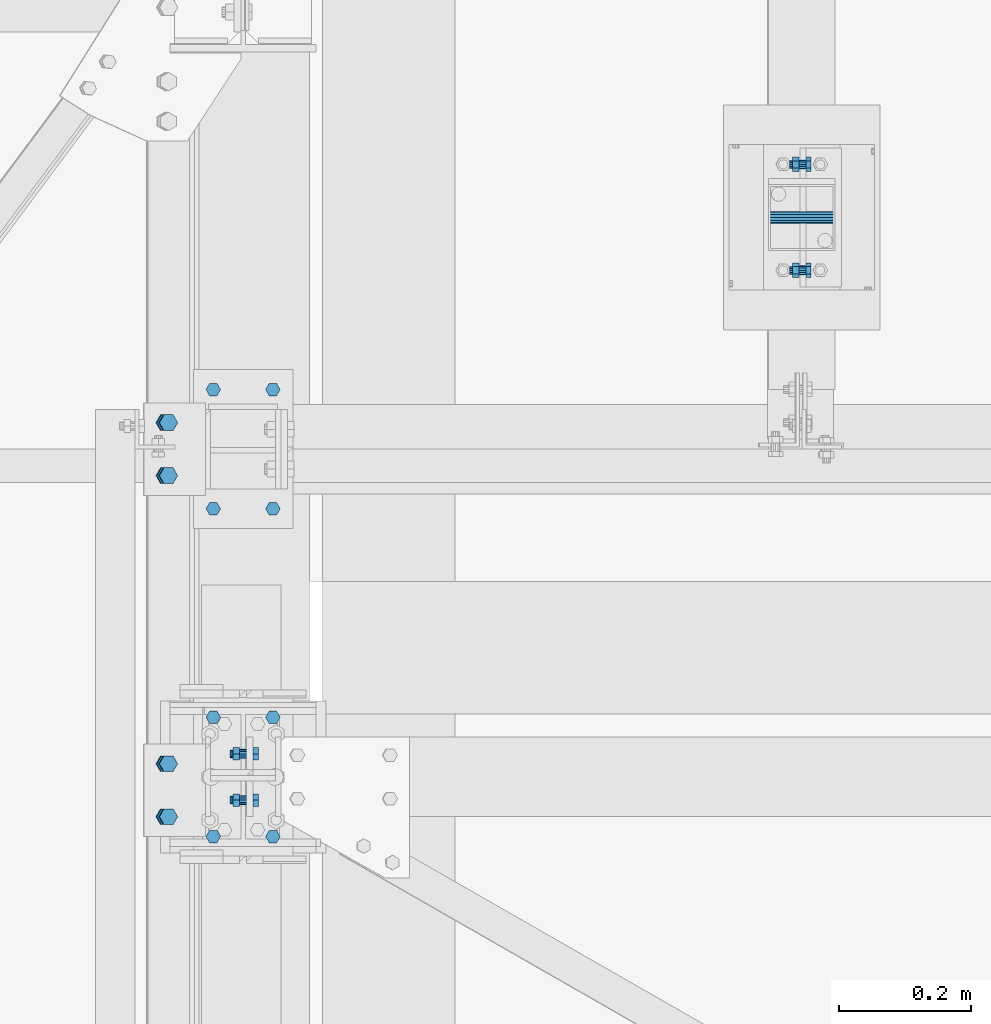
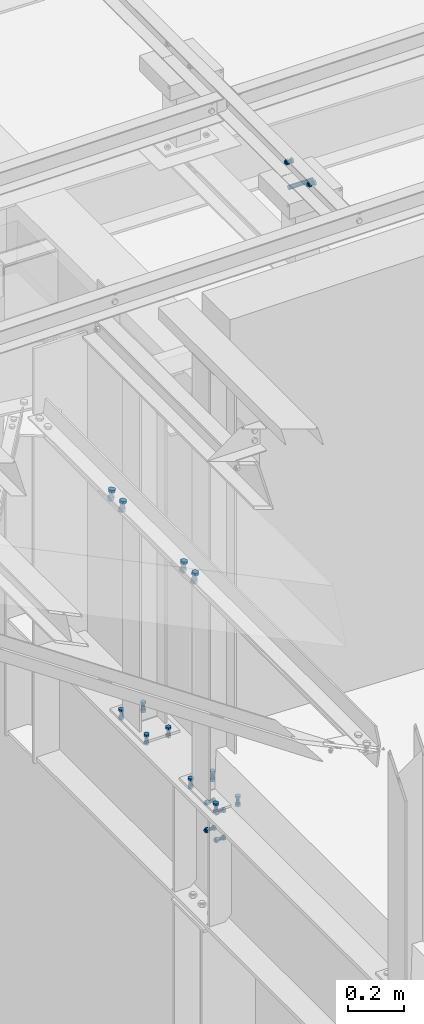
# One storey, part 388 of 3134: 7 mechanical fasteners, 3 elements without a shape of their own.
"""IFC2X3 building model written with IfcOpenShell, lengths in millimetres."""

from ifc_helpers import new_model, si_unit, frame, origin_with_axes, place, context, subcontext, project, spatial, faceted_brep, source, transform, mapped, material, type_object, element, aggregate, save


model = new_model("IFC2X3")

# Units and contexts
model_context = context("Model", 3, precision=1e-05, world=origin_with_axes())
body_context = subcontext(model_context, "Body", "Model", "MODEL_VIEW")
ifc_project = project(units=[si_unit("LENGTHUNIT", "METRE", prefix="MILLI"), si_unit("AREAUNIT", "SQUARE_METRE"), si_unit("VOLUMEUNIT", "CUBIC_METRE"), si_unit("MASSUNIT", "GRAM", prefix="KILO"), si_unit("TIMEUNIT", "SECOND"), si_unit("PLANEANGLEUNIT", "RADIAN"), si_unit("SOLIDANGLEUNIT", "STERADIAN"), si_unit("THERMODYNAMICTEMPERATUREUNIT", "DEGREE_CELSIUS"), si_unit("LUMINOUSINTENSITYUNIT", "LUMEN")], contexts=[model_context])

# Site, building, storey
site_placement = place(None, origin_with_axes())
site = spatial("IfcSite", under=ifc_project, at=site_placement, CompositionType="ELEMENT")
building_placement = place(site_placement, origin_with_axes())
building = spatial("IfcBuilding", under=site, at=building_placement, Name="Undefined", CompositionType="ELEMENT")
storey_placement = place(building_placement, origin_with_axes())
storey = spatial("IfcBuildingStorey", under=building, at=storey_placement, Name="Undefined", CompositionType="ELEMENT", Elevation=0.0)

# Assembly, mechanical fasteners
assembly_1_placement = place(storey_placement, origin_with_axes())
assembly_1 = element("IfcElementAssembly", 1, at=assembly_1_placement, inside=storey, AssemblyPlace="NOTDEFINED", PredefinedType="RIGID_FRAME")
ifc_material = material(Name="8.8")
mechanical_fastener_type = type_object("IfcMechanicalFastenerType", Name="Bolt assembly")
shared_shape_1 = source(origin_with_axes(), body_context, "Body", "Brep", [
    faceted_brep([(10.9696551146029, -14.0, 0.0), (5.48482755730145, -14.0, 9.5), (-5.48482755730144, -14.0, 9.5), (-10.9696551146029, -14.0, 1.34339530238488e-15), (-5.48482755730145, -14.0, -9.5), (5.48482755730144, -14.0, -9.50000000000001), (5.48482755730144, -6.0, -9.50000000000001), (-5.48482755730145, -6.0, -9.5), (-10.9696551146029, -6.0, 1.34339530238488e-15), (-5.48482755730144, -6.0, 9.5), (5.48482755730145, -6.0, 9.5), (10.9696551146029, -6.0, 0.0), (6.0, -6.0, 0.0), (5.19615242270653, -6.0, 3.00000000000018), (2.99999999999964, -6.0, 5.19615242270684), (-6.21801588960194e-13, -6.0, 6.0), (-3.00000000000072, -6.0, 5.19615242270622), (-5.19615242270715, -6.0, 2.9999999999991), (-6.0, -6.0, -1.24360317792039e-12), (-5.19615242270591, -6.0, -3.00000000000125), (-2.99999999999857, -6.0, -5.19615242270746), (1.85874342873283e-12, -6.0, -6.0), (3.00000000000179, -6.0, -5.1961524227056), (5.19615242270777, -6.0, -2.99999999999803), (5.19615242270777, 19.0, -2.99999999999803), (3.00000000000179, 19.0, -5.1961524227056), (1.85874342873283e-12, 19.0, -6.0), (-2.99999999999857, 19.0, -5.19615242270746), (-5.19615242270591, 19.0, -3.00000000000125), (-6.0, 19.0, -1.24360317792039e-12), (-5.19615242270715, 19.0, 2.9999999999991), (-3.00000000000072, 19.0, 5.19615242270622), (-6.21801588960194e-13, 19.0, 6.0), (2.99999999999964, 19.0, 5.19615242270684), (5.19615242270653, 19.0, 3.00000000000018), (6.0, 19.0, 0.0), (10.9696551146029, 4.00000000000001, 0.0), (5.48482755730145, 4.00000000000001, 9.5), (-5.48482755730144, 4.00000000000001, 9.5), (-10.9696551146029, 4.00000000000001, 1.34339530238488e-15), (-5.48482755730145, 4.00000000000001, -9.5), (5.48482755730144, 4.00000000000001, -9.50000000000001), (5.48482755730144, 14.0, -9.50000000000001), (-5.48482755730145, 14.0, -9.5), (-10.9696551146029, 14.0, 1.34339530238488e-15), (-5.48482755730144, 14.0, 9.5), (5.48482755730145, 14.0, 9.5), (10.9696551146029, 14.0, 0.0)], [[[0, 1, 2, 3, 4, 5]], [[6, 7, 8, 9, 10, 11]], [[0, 11, 10, 1]], [[1, 10, 9, 2]], [[2, 9, 8, 3]], [[3, 8, 7, 4]], [[4, 7, 6, 5]], [[5, 6, 11, 0]], [[12, 13, 14, 15, 16, 17, 18, 19, 20, 21, 22, 23]], [[24, 25, 26, 27, 28, 29, 30, 31, 32, 33, 34, 35]], [[12, 35, 34, 13]], [[13, 34, 33, 14]], [[14, 33, 32, 15]], [[15, 32, 31, 16]], [[16, 31, 30, 17]], [[17, 30, 29, 18]], [[18, 29, 28, 19]], [[19, 28, 27, 20]], [[20, 27, 26, 21]], [[21, 26, 25, 22]], [[22, 25, 24, 23]], [[23, 24, 35, 12]], [[36, 37, 38, 39, 40, 41]], [[42, 43, 44, 45, 46, 47]], [[36, 47, 46, 37]], [[37, 46, 45, 38]], [[38, 45, 44, 39]], [[39, 44, 43, 40]], [[40, 43, 42, 41]], [[41, 42, 47, 36]]]),
    faceted_brep([(7.0, -0.1, 0.0), (6.06217782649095, -0.1, 3.50000000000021), (3.49999999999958, -0.1, 6.06217782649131), (-7.25435187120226e-13, -0.1, 7.0), (-3.50000000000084, -0.1, 6.06217782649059), (-6.06217782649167, -0.1, 3.49999999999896), (-7.0, -0.1, -1.45087037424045e-12), (-6.06217782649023, -0.1, -3.50000000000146), (-3.49999999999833, -0.1, -6.06217782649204), (2.1685340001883e-12, -0.1, -7.0), (3.50000000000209, -0.1, -6.06217782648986), (6.0621778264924, -0.1, -3.4999999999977), (6.0621778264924, 4.00000000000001, -3.4999999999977), (3.50000000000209, 4.00000000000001, -6.06217782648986), (2.1685340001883e-12, 4.00000000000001, -7.0), (-3.49999999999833, 4.00000000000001, -6.06217782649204), (-6.06217782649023, 4.00000000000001, -3.50000000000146), (-7.0, 4.00000000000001, -1.45087037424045e-12), (-6.06217782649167, 4.00000000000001, 3.49999999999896), (-3.50000000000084, 4.00000000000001, 6.06217782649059), (-7.25435187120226e-13, 4.00000000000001, 7.0), (3.49999999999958, 4.00000000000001, 6.06217782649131), (6.06217782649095, 4.00000000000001, 3.50000000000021), (7.0, 4.00000000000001, 0.0), (7.0, -5.9, 0.0), (6.06217782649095, -5.9, 3.50000000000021), (3.49999999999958, -5.9, 6.06217782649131), (-7.25435187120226e-13, -5.9, 7.0), (-3.50000000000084, -5.9, 6.06217782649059), (-6.06217782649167, -5.9, 3.49999999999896), (-7.0, -5.9, -1.45087037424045e-12), (-6.06217782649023, -5.9, -3.50000000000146), (-3.49999999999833, -5.9, -6.06217782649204), (2.1685340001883e-12, -5.9, -7.0), (3.50000000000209, -5.9, -6.06217782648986), (6.0621778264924, -5.9, -3.4999999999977), (6.0621778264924, 0.0999999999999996, -3.4999999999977), (3.50000000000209, 0.0999999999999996, -6.06217782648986), (2.1685340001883e-12, 0.0999999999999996, -7.0), (-3.49999999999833, 0.0999999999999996, -6.06217782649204), (-6.06217782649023, 0.0999999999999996, -3.50000000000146), (-7.0, 0.0999999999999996, -1.45087037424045e-12), (-6.06217782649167, 0.0999999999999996, 3.49999999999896), (-3.50000000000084, 0.0999999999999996, 6.06217782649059), (-7.25435187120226e-13, 0.0999999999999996, 7.0), (3.49999999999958, 0.0999999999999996, 6.06217782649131), (6.06217782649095, 0.0999999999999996, 3.50000000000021), (7.0, 0.0999999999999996, 0.0)], [[[0, 1, 2, 3, 4, 5, 6, 7, 8, 9, 10, 11]], [[12, 13, 14, 15, 16, 17, 18, 19, 20, 21, 22, 23]], [[0, 23, 22, 1]], [[1, 22, 21, 2]], [[2, 21, 20, 3]], [[3, 20, 19, 4]], [[4, 19, 18, 5]], [[5, 18, 17, 6]], [[6, 17, 16, 7]], [[7, 16, 15, 8]], [[8, 15, 14, 9]], [[9, 14, 13, 10]], [[10, 13, 12, 11]], [[11, 12, 23, 0]], [[24, 25, 26, 27, 28, 29, 30, 31, 32, 33, 34, 35]], [[36, 37, 38, 39, 40, 41, 42, 43, 44, 45, 46, 47]], [[24, 47, 46, 25]], [[25, 46, 45, 26]], [[26, 45, 44, 27]], [[27, 44, 43, 28]], [[28, 43, 42, 29]], [[29, 42, 41, 30]], [[30, 41, 40, 31]], [[31, 40, 39, 32]], [[32, 39, 38, 33]], [[33, 38, 37, 34]], [[34, 37, 36, 35]], [[35, 36, 47, 24]]]),
])
mechanical_fastener_1_placement = place(assembly_1_placement, frame((72658.73, 26815.0, 5885.0), z_axis=(0.0, 0.0, 1.0), x_axis=(0.0, 1.0, 0.0)))
mechanical_fastener_1 = element("IfcMechanicalFastener", 2, at=mechanical_fastener_1_placement, type_object=mechanical_fastener_type, material=ifc_material, Name="Bolt assembly", NominalDiameter=12.0, NominalLength=25.0, context=body_context, shape_type="MappedRepresentation", body=[
    mapped(shared_shape_1, transform((0.0, 0.0, 0.0))),
    mapped(shared_shape_1, transform((160.0, 0.0, 0.0))),
])
shared_shape_2 = source(origin_with_axes(), body_context, "Body", "Brep", [
    faceted_brep([(9.0, -50.0, 0.0), (7.79422863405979, -50.0, 4.50000000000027), (4.49999999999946, -50.0, 7.79422863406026), (-9.3270238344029e-13, -50.0, 9.0), (-4.50000000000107, -50.0, 7.79422863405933), (-7.79422863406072, -50.0, 4.49999999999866), (-9.0, -50.0, -1.86540476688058e-12), (-7.79422863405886, -50.0, -4.50000000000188), (-4.49999999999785, -50.0, -7.79422863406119), (2.78811514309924e-12, -50.0, -9.0), (4.50000000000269, -50.0, -7.7942286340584), (7.79422863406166, -50.0, -4.49999999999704), (7.79422863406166, 50.1, -4.49999999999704), (4.50000000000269, 50.1, -7.7942286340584), (2.78811514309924e-12, 50.1, -9.0), (-4.49999999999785, 50.1, -7.79422863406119), (-7.79422863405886, 50.1, -4.50000000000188), (-9.0, 50.1, -1.86540476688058e-12), (-7.79422863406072, 50.1, 4.49999999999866), (-4.50000000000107, 50.1, 7.79422863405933), (-9.3270238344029e-13, 50.1, 9.0), (4.49999999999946, 50.1, 7.79422863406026), (7.79422863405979, 50.1, 4.50000000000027), (9.0, 50.1, 0.0)], [[[0, 1, 2, 3, 4, 5, 6, 7, 8, 9, 10, 11]], [[12, 13, 14, 15, 16, 17, 18, 19, 20, 21, 22, 23]], [[0, 23, 22, 1]], [[1, 22, 21, 2]], [[2, 21, 20, 3]], [[3, 20, 19, 4]], [[4, 19, 18, 5]], [[5, 18, 17, 6]], [[6, 17, 16, 7]], [[7, 16, 15, 8]], [[8, 15, 14, 9]], [[9, 14, 13, 10]], [[10, 13, 12, 11]], [[11, 12, 23, 0]]]),
])
mechanical_fastener_2_placement = place(assembly_1_placement, frame((72658.73, 26895.0, 5836.0), z_axis=(0.0, 1.0, 0.0), x_axis=(0.0, 0.0, 1.0)))
mechanical_fastener_2 = element("IfcMechanicalFastener", 3, at=mechanical_fastener_2_placement, type_object=mechanical_fastener_type, material=ifc_material, Name="Bolt assembly", NominalDiameter=16.0, NominalLength=100.0, context=body_context, shape_type="MappedRepresentation", body=[
    mapped(shared_shape_2, transform((0.0, 0.0, 0.0))),
])
aggregate(assembly_1, [mechanical_fastener_2, mechanical_fastener_1])

assembly_2_placement = place(storey_placement, origin_with_axes())
assembly_2 = element("IfcElementAssembly", 4, at=assembly_2_placement, inside=storey, AssemblyPlace="NOTDEFINED", PredefinedType="RIGID_FRAME")
shared_shape_3 = source(origin_with_axes(), body_context, "Body", "Brep", [
    faceted_brep([(13.856406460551, -25.007987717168, 0.0), (6.92820323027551, -25.007987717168, 12.0), (-6.92820323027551, -25.007987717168, 12.0), (-13.856406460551, -25.007987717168, 1.69692038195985e-15), (-6.92820323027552, -25.007987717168, -12.0), (6.9282032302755, -25.007987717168, -12.0), (6.9282032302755, -15.007987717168, -12.0), (-6.92820323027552, -15.007987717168, -12.0), (-13.856406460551, -15.007987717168, 1.69692038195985e-15), (-6.92820323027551, -15.007987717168, 12.0), (6.92820323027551, -15.007987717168, 12.0), (13.856406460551, -15.007987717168, 0.0), (8.0, -15.007987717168, 0.0), (6.92820323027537, -15.007987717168, 4.00000000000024), (3.99999999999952, -15.007987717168, 6.92820323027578), (-8.29068785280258e-13, -15.007987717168, 8.0), (-4.00000000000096, -15.007987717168, 6.92820323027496), (-6.9282032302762, -15.007987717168, 3.99999999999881), (-8.0, -15.007987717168, -1.65813757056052e-12), (-6.92820323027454, -15.007987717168, -4.00000000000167), (-3.99999999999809, -15.007987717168, -6.92820323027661), (2.47832457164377e-12, -15.007987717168, -8.0), (4.00000000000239, -15.007987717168, -6.92820323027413), (6.92820323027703, -15.007987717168, -3.99999999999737), (6.92820323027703, 24.992012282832, -3.99999999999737), (4.00000000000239, 24.992012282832, -6.92820323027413), (2.47832457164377e-12, 24.992012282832, -8.0), (-3.99999999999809, 24.992012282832, -6.92820323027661), (-6.92820323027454, 24.992012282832, -4.00000000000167), (-8.0, 24.992012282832, -1.65813757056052e-12), (-6.9282032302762, 24.992012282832, 3.99999999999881), (-4.00000000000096, 24.992012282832, 6.92820323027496), (-8.29068785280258e-13, 24.992012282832, 8.0), (3.99999999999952, 24.992012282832, 6.92820323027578), (6.92820323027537, 24.992012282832, 4.00000000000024), (8.0, 24.992012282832, 0.0), (13.856406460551, 6.99201311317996, 0.0), (6.92820323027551, 6.99201311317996, 12.0), (-6.92820323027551, 6.99201311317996, 12.0), (-13.856406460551, 6.99201311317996, 1.69692038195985e-15), (-6.92820323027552, 6.99201311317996, -12.0), (6.9282032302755, 6.99201311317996, -12.0), (6.9282032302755, 19.99201311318, -12.0), (-6.92820323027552, 19.99201311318, -12.0), (-13.856406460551, 19.99201311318, 1.69692038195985e-15), (-6.92820323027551, 19.99201311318, 12.0), (6.92820323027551, 19.99201311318, 12.0), (13.856406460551, 19.99201311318, 0.0)], [[[0, 1, 2, 3, 4, 5]], [[6, 7, 8, 9, 10, 11]], [[0, 11, 10, 1]], [[1, 10, 9, 2]], [[2, 9, 8, 3]], [[3, 8, 7, 4]], [[4, 7, 6, 5]], [[5, 6, 11, 0]], [[12, 13, 14, 15, 16, 17, 18, 19, 20, 21, 22, 23]], [[24, 25, 26, 27, 28, 29, 30, 31, 32, 33, 34, 35]], [[12, 35, 34, 13]], [[13, 34, 33, 14]], [[14, 33, 32, 15]], [[15, 32, 31, 16]], [[16, 31, 30, 17]], [[17, 30, 29, 18]], [[18, 29, 28, 19]], [[19, 28, 27, 20]], [[20, 27, 26, 21]], [[21, 26, 25, 22]], [[22, 25, 24, 23]], [[23, 24, 35, 12]], [[36, 37, 38, 39, 40, 41]], [[42, 43, 44, 45, 46, 47]], [[36, 47, 46, 37]], [[37, 46, 45, 38]], [[38, 45, 44, 39]], [[39, 44, 43, 40]], [[40, 43, 42, 41]], [[41, 42, 47, 36]]]),
    faceted_brep([(9.0, -8.00998767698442, 0.0), (7.79422863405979, -8.00998767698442, 4.50000000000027), (4.49999999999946, -8.00998767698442, 7.79422863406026), (-9.3270238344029e-13, -8.00998767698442, 9.0), (-4.50000000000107, -8.00998767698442, 7.79422863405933), (-7.79422863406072, -8.00998767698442, 4.49999999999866), (-9.0, -8.00998767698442, -1.86540476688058e-12), (-7.79422863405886, -8.00998767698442, -4.50000000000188), (-4.49999999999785, -8.00998767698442, -7.79422863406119), (2.78811514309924e-12, -8.00998767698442, -9.0), (4.50000000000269, -8.00998767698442, -7.7942286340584), (7.79422863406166, -8.00998767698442, -4.49999999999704), (7.79422863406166, -0.00998752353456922, -4.49999999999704), (4.50000000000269, -0.00998752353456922, -7.7942286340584), (2.78811514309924e-12, -0.00998752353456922, -9.0), (-4.49999999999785, -0.00998752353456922, -7.79422863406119), (-7.79422863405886, -0.00998752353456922, -4.50000000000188), (-9.0, -0.00998752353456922, -1.86540476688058e-12), (-7.79422863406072, -0.00998752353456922, 4.49999999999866), (-4.50000000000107, -0.00998752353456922, 7.79422863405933), (-9.3270238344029e-13, -0.00998752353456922, 9.0), (4.49999999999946, -0.00998752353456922, 7.79422863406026), (7.79422863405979, -0.00998752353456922, 4.50000000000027), (9.0, -0.00998752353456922, 0.0), (9.0, -14.907987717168, 0.0), (7.79422863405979, -14.907987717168, 4.50000000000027), (4.49999999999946, -14.907987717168, 7.79422863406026), (-9.3270238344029e-13, -14.907987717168, 9.0), (-4.50000000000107, -14.907987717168, 7.79422863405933), (-7.79422863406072, -14.907987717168, 4.49999999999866), (-9.0, -14.907987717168, -1.86540476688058e-12), (-7.79422863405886, -14.907987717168, -4.50000000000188), (-4.49999999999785, -14.907987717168, -7.79422863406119), (2.78811514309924e-12, -14.907987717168, -9.0), (4.50000000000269, -14.907987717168, -7.7942286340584), (7.79422863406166, -14.907987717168, -4.49999999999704), (7.79422863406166, -7.90798758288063, -4.49999999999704), (4.50000000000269, -7.90798758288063, -7.7942286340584), (2.78811514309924e-12, -7.90798758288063, -9.0), (-4.49999999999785, -7.90798758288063, -7.79422863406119), (-7.79422863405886, -7.90798758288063, -4.50000000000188), (-9.0, -7.90798758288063, -1.86540476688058e-12), (-7.79422863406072, -7.90798758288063, 4.49999999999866), (-4.50000000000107, -7.90798758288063, 7.79422863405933), (-9.3270238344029e-13, -7.90798758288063, 9.0), (4.49999999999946, -7.90798758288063, 7.79422863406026), (7.79422863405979, -7.90798758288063, 4.50000000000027), (9.0, -7.90798758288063, 0.0), (9.0, -0.107987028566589, 0.0), (7.79422863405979, -0.107987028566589, 4.50000000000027), (4.49999999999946, -0.107987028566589, 7.79422863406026), (-9.3270238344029e-13, -0.107987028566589, 9.0), (-4.50000000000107, -0.107987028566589, 7.79422863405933), (-7.79422863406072, -0.107987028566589, 4.49999999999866), (-9.0, -0.107987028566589, -1.86540476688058e-12), (-7.79422863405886, -0.107987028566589, -4.50000000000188), (-4.49999999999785, -0.107987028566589, -7.79422863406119), (2.78811514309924e-12, -0.107987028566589, -9.0), (4.50000000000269, -0.107987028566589, -7.7942286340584), (7.79422863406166, -0.107987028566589, -4.49999999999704), (7.79422863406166, 6.99201311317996, -4.49999999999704), (4.50000000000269, 6.99201311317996, -7.7942286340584), (2.78811514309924e-12, 6.99201311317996, -9.0), (-4.49999999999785, 6.99201311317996, -7.79422863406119), (-7.79422863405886, 6.99201311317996, -4.50000000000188), (-9.0, 6.99201311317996, -1.86540476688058e-12), (-7.79422863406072, 6.99201311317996, 4.49999999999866), (-4.50000000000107, 6.99201311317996, 7.79422863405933), (-9.3270238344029e-13, 6.99201311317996, 9.0), (4.49999999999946, 6.99201311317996, 7.79422863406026), (7.79422863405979, 6.99201311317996, 4.50000000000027), (9.0, 6.99201311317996, 0.0)], [[[0, 1, 2, 3, 4, 5, 6, 7, 8, 9, 10, 11]], [[12, 13, 14, 15, 16, 17, 18, 19, 20, 21, 22, 23]], [[0, 23, 22, 1]], [[1, 22, 21, 2]], [[2, 21, 20, 3]], [[3, 20, 19, 4]], [[4, 19, 18, 5]], [[5, 18, 17, 6]], [[6, 17, 16, 7]], [[7, 16, 15, 8]], [[8, 15, 14, 9]], [[9, 14, 13, 10]], [[10, 13, 12, 11]], [[11, 12, 23, 0]], [[24, 25, 26, 27, 28, 29, 30, 31, 32, 33, 34, 35]], [[36, 37, 38, 39, 40, 41, 42, 43, 44, 45, 46, 47]], [[24, 47, 46, 25]], [[25, 46, 45, 26]], [[26, 45, 44, 27]], [[27, 44, 43, 28]], [[28, 43, 42, 29]], [[29, 42, 41, 30]], [[30, 41, 40, 31]], [[31, 40, 39, 32]], [[32, 39, 38, 33]], [[33, 38, 37, 34]], [[34, 37, 36, 35]], [[35, 36, 47, 24]], [[48, 49, 50, 51, 52, 53, 54, 55, 56, 57, 58, 59]], [[60, 61, 62, 63, 64, 65, 66, 67, 68, 69, 70, 71]], [[48, 71, 70, 49]], [[49, 70, 69, 50]], [[50, 69, 68, 51]], [[51, 68, 67, 52]], [[52, 67, 66, 53]], [[53, 66, 65, 54]], [[54, 65, 64, 55]], [[55, 64, 63, 56]], [[56, 63, 62, 57]], [[57, 62, 61, 58]], [[58, 61, 60, 59]], [[59, 60, 71, 48]]]),
])
mechanical_fastener_3_placement = place(assembly_2_placement, frame((71699.409483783, 26545.0, 5004.91093430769), z_axis=(0.0, 1.0, 0.0), x_axis=(0.992646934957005, 0.0, -0.121045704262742)))
mechanical_fastener_3 = element("IfcMechanicalFastener", 5, at=mechanical_fastener_3_placement, type_object=mechanical_fastener_type, material=ifc_material, Name="Bolt assembly", NominalDiameter=16.0, NominalLength=40.0, context=body_context, shape_type="MappedRepresentation", body=[
    mapped(shared_shape_3, transform((0.0, 0.0, -40.0))),
    mapped(shared_shape_3, transform((0.0, 0.0, 40.0))),
])
mechanical_fastener_4_placement = place(assembly_2_placement, frame((71699.409483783, 26030.0, 5004.91093430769), z_axis=(0.0, 1.0, 0.0), x_axis=(0.992646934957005, 0.0, -0.121045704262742)))
mechanical_fastener_4 = element("IfcMechanicalFastener", 6, at=mechanical_fastener_4_placement, type_object=mechanical_fastener_type, material=ifc_material, Name="Bolt assembly", NominalDiameter=16.0, NominalLength=40.0, context=body_context, shape_type="MappedRepresentation", body=[
    mapped(shared_shape_3, transform((0.0, 0.0, -40.0))),
    mapped(shared_shape_3, transform((0.0, 0.0, 40.0))),
])
aggregate(assembly_2, [mechanical_fastener_3, mechanical_fastener_4])

assembly_3_placement = place(storey_placement, origin_with_axes())
assembly_3 = element("IfcElementAssembly", 7, at=assembly_3_placement, inside=storey, Name="IPE500", AssemblyPlace="NOTDEFINED", PredefinedType="RIGID_FRAME")
shared_shape_4 = source(origin_with_axes(), body_context, "Body", "Brep", [
    faceted_brep([(10.9696551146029, -18.0, 0.0), (5.48482755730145, -18.0, 9.5), (-5.48482755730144, -18.0, 9.5), (-10.9696551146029, -18.0, 1.34339530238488e-15), (-5.48482755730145, -18.0, -9.5), (5.48482755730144, -18.0, -9.50000000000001), (5.48482755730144, -10.0, -9.50000000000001), (-5.48482755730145, -10.0, -9.5), (-10.9696551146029, -10.0, 1.34339530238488e-15), (-5.48482755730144, -10.0, 9.5), (5.48482755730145, -10.0, 9.5), (10.9696551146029, -10.0, 0.0), (6.0, -10.0, 0.0), (5.19615242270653, -10.0, 3.00000000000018), (2.99999999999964, -10.0, 5.19615242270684), (-6.21801588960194e-13, -10.0, 6.0), (-3.00000000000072, -10.0, 5.19615242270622), (-5.19615242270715, -10.0, 2.9999999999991), (-6.0, -10.0, -1.24360317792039e-12), (-5.19615242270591, -10.0, -3.00000000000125), (-2.99999999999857, -10.0, -5.19615242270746), (1.85874342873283e-12, -10.0, -6.0), (3.00000000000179, -10.0, -5.1961524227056), (5.19615242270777, -10.0, -2.99999999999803), (5.19615242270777, 30.0, -2.99999999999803), (3.00000000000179, 30.0, -5.1961524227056), (1.85874342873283e-12, 30.0, -6.0), (-2.99999999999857, 30.0, -5.19615242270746), (-5.19615242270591, 30.0, -3.00000000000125), (-6.0, 30.0, -1.24360317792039e-12), (-5.19615242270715, 30.0, 2.9999999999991), (-3.00000000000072, 30.0, 5.19615242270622), (-6.21801588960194e-13, 30.0, 6.0), (2.99999999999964, 30.0, 5.19615242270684), (5.19615242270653, 30.0, 3.00000000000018), (6.0, 30.0, 0.0), (10.9696551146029, 16.0, 0.0), (5.48482755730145, 16.0, 9.5), (-5.48482755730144, 16.0, 9.5), (-10.9696551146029, 16.0, 1.34339530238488e-15), (-5.48482755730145, 16.0, -9.5), (5.48482755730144, 16.0, -9.50000000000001), (5.48482755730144, 26.0000003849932, -9.50000000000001), (-5.48482755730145, 26.0000003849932, -9.5), (-10.9696551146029, 26.0000003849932, 1.34339530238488e-15), (-5.48482755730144, 26.0000003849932, 9.5), (5.48482755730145, 26.0000003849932, 9.5), (10.9696551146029, 26.0000003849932, 0.0)], [[[0, 1, 2, 3, 4, 5]], [[6, 7, 8, 9, 10, 11]], [[0, 11, 10, 1]], [[1, 10, 9, 2]], [[2, 9, 8, 3]], [[3, 8, 7, 4]], [[4, 7, 6, 5]], [[5, 6, 11, 0]], [[12, 13, 14, 15, 16, 17, 18, 19, 20, 21, 22, 23]], [[24, 25, 26, 27, 28, 29, 30, 31, 32, 33, 34, 35]], [[12, 35, 34, 13]], [[13, 34, 33, 14]], [[14, 33, 32, 15]], [[15, 32, 31, 16]], [[16, 31, 30, 17]], [[17, 30, 29, 18]], [[18, 29, 28, 19]], [[19, 28, 27, 20]], [[20, 27, 26, 21]], [[21, 26, 25, 22]], [[22, 25, 24, 23]], [[23, 24, 35, 12]], [[36, 37, 38, 39, 40, 41]], [[42, 43, 44, 45, 46, 47]], [[36, 47, 46, 37]], [[37, 46, 45, 38]], [[38, 45, 44, 39]], [[39, 44, 43, 40]], [[40, 43, 42, 41]], [[41, 42, 47, 36]]]),
    faceted_brep([(7.0, -9.89999913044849, 0.0), (6.06217782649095, -9.89999913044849, 3.50000000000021), (3.49999999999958, -9.89999913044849, 6.06217782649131), (-7.25435187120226e-13, -9.89999913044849, 7.0), (-3.50000000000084, -9.89999913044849, 6.06217782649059), (-6.06217782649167, -9.89999913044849, 3.49999999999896), (-7.0, -9.89999913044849, -1.45087037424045e-12), (-6.06217782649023, -9.89999913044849, -3.50000000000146), (-3.49999999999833, -9.89999913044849, -6.06217782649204), (2.1685340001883e-12, -9.89999913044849, -7.0), (3.50000000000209, -9.89999913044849, -6.06217782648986), (6.0621778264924, -9.89999913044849, -3.4999999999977), (6.0621778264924, 0.0999999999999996, -3.4999999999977), (3.50000000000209, 0.0999999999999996, -6.06217782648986), (2.1685340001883e-12, 0.0999999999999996, -7.0), (-3.49999999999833, 0.0999999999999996, -6.06217782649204), (-6.06217782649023, 0.0999999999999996, -3.50000000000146), (-7.0, 0.0999999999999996, -1.45087037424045e-12), (-6.06217782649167, 0.0999999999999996, 3.49999999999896), (-3.50000000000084, 0.0999999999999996, 6.06217782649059), (-7.25435187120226e-13, 0.0999999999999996, 7.0), (3.49999999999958, 0.0999999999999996, 6.06217782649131), (6.06217782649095, 0.0999999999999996, 3.50000000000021), (7.0, 0.0999999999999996, 0.0), (7.0, -0.1, 0.0), (6.06217782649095, -0.1, 3.50000000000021), (3.49999999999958, -0.1, 6.06217782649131), (-7.25435187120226e-13, -0.1, 7.0), (-3.50000000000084, -0.1, 6.06217782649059), (-6.06217782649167, -0.1, 3.49999999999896), (-7.0, -0.1, -1.45087037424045e-12), (-6.06217782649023, -0.1, -3.50000000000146), (-3.49999999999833, -0.1, -6.06217782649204), (2.1685340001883e-12, -0.1, -7.0), (3.50000000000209, -0.1, -6.06217782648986), (6.0621778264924, -0.1, -3.4999999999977), (6.0621778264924, 16.0000003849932, -3.4999999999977), (3.50000000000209, 16.0000003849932, -6.06217782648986), (2.1685340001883e-12, 16.0000003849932, -7.0), (-3.49999999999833, 16.0000003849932, -6.06217782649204), (-6.06217782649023, 16.0000003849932, -3.50000000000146), (-7.0, 16.0000003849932, -1.45087037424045e-12), (-6.06217782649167, 16.0000003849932, 3.49999999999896), (-3.50000000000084, 16.0000003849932, 6.06217782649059), (-7.25435187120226e-13, 16.0000003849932, 7.0), (3.49999999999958, 16.0000003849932, 6.06217782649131), (6.06217782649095, 16.0000003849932, 3.50000000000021), (7.0, 16.0000003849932, 0.0)], [[[0, 1, 2, 3, 4, 5, 6, 7, 8, 9, 10, 11]], [[12, 13, 14, 15, 16, 17, 18, 19, 20, 21, 22, 23]], [[0, 23, 22, 1]], [[1, 22, 21, 2]], [[2, 21, 20, 3]], [[3, 20, 19, 4]], [[4, 19, 18, 5]], [[5, 18, 17, 6]], [[6, 17, 16, 7]], [[7, 16, 15, 8]], [[8, 15, 14, 9]], [[9, 14, 13, 10]], [[10, 13, 12, 11]], [[11, 12, 23, 0]], [[24, 25, 26, 27, 28, 29, 30, 31, 32, 33, 34, 35]], [[36, 37, 38, 39, 40, 41, 42, 43, 44, 45, 46, 47]], [[24, 47, 46, 25]], [[25, 46, 45, 26]], [[26, 45, 44, 27]], [[27, 44, 43, 28]], [[28, 43, 42, 29]], [[29, 42, 41, 30]], [[30, 41, 40, 31]], [[31, 40, 39, 32]], [[32, 39, 38, 33]], [[33, 38, 37, 34]], [[34, 37, 36, 35]], [[35, 36, 47, 24]]]),
])
mechanical_fastener_5_placement = place(assembly_3_placement, frame((71770.0, 26544.9999999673, 4000.00000038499), z_axis=(0.0, 1.0, 0.0), x_axis=(1.0, 0.0, 0.0)))
mechanical_fastener_5 = element("IfcMechanicalFastener", 8, at=mechanical_fastener_5_placement, type_object=mechanical_fastener_type, material=ifc_material, Name="Bolt assembly", NominalDiameter=12.0, NominalLength=40.0, context=body_context, shape_type="MappedRepresentation", body=[
    mapped(shared_shape_4, transform((0.0, 0.0, -90.0))),
    mapped(shared_shape_4, transform((90.0, 0.0, -90.0))),
    mapped(shared_shape_4, transform((0.0, 0.0, 90.0))),
    mapped(shared_shape_4, transform((90.0, 0.0, 90.0))),
])
mechanical_fastener_6_placement = place(assembly_3_placement, frame((71770.0, 26049.9999999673, 4000.00000038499), z_axis=(0.0, 1.0, 0.0), x_axis=(1.0, 0.0, 0.0)))
mechanical_fastener_6 = element("IfcMechanicalFastener", 9, at=mechanical_fastener_6_placement, type_object=mechanical_fastener_type, material=ifc_material, Name="Bolt assembly", NominalDiameter=12.0, NominalLength=40.0, context=body_context, shape_type="MappedRepresentation", body=[
    mapped(shared_shape_4, transform((0.0, 0.0, -90.0))),
    mapped(shared_shape_4, transform((90.0, 0.0, -90.0))),
    mapped(shared_shape_4, transform((0.0, 0.0, 90.0))),
    mapped(shared_shape_4, transform((90.0, 0.0, 90.0))),
])
shared_shape_5 = source(origin_with_axes(), body_context, "Body", "Brep", [
    faceted_brep([(10.9696551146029, -18.0, 0.0), (5.48482755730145, -18.0, 9.5), (-5.48482755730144, -18.0, 9.5), (-10.9696551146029, -18.0, 1.34339530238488e-15), (-5.48482755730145, -18.0, -9.5), (5.48482755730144, -18.0, -9.50000000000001), (5.48482755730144, -10.0, -9.50000000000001), (-5.48482755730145, -10.0, -9.5), (-10.9696551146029, -10.0, 1.34339530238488e-15), (-5.48482755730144, -10.0, 9.5), (5.48482755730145, -10.0, 9.5), (10.9696551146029, -10.0, 0.0), (6.0, -10.0, 0.0), (5.19615242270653, -10.0, 3.00000000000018), (2.99999999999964, -10.0, 5.19615242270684), (-6.21801588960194e-13, -10.0, 6.0), (-3.00000000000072, -10.0, 5.19615242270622), (-5.19615242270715, -10.0, 2.9999999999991), (-6.0, -10.0, -1.24360317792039e-12), (-5.19615242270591, -10.0, -3.00000000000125), (-2.99999999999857, -10.0, -5.19615242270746), (1.85874342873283e-12, -10.0, -6.0), (3.00000000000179, -10.0, -5.1961524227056), (5.19615242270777, -10.0, -2.99999999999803), (5.19615242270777, 24.9999999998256, -2.99999999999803), (3.00000000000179, 24.9999999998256, -5.1961524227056), (1.85874342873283e-12, 24.9999999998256, -6.0), (-2.99999999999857, 24.9999999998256, -5.19615242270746), (-5.19615242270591, 24.9999999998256, -3.00000000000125), (-6.0, 24.9999999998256, -1.24360317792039e-12), (-5.19615242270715, 24.9999999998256, 2.9999999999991), (-3.00000000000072, 24.9999999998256, 5.19615242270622), (-6.21801588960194e-13, 24.9999999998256, 6.0), (2.99999999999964, 24.9999999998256, 5.19615242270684), (5.19615242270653, 24.9999999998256, 3.00000000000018), (6.0, 24.9999999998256, 0.0), (10.9696551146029, 10.1999998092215, 0.0), (5.48482755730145, 10.1999998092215, 9.5), (-5.48482755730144, 10.1999998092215, 9.5), (-10.9696551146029, 10.1999998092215, 1.34339530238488e-15), (-5.48482755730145, 10.1999998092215, -9.5), (5.48482755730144, 10.1999998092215, -9.50000000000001), (5.48482755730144, 20.1999998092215, -9.50000000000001), (-5.48482755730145, 20.1999998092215, -9.5), (-10.9696551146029, 20.1999998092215, 1.34339530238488e-15), (-5.48482755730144, 20.1999998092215, 9.5), (5.48482755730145, 20.1999998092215, 9.5), (10.9696551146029, 20.1999998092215, 0.0)], [[[0, 1, 2, 3, 4, 5]], [[6, 7, 8, 9, 10, 11]], [[0, 11, 10, 1]], [[1, 10, 9, 2]], [[2, 9, 8, 3]], [[3, 8, 7, 4]], [[4, 7, 6, 5]], [[5, 6, 11, 0]], [[12, 13, 14, 15, 16, 17, 18, 19, 20, 21, 22, 23]], [[24, 25, 26, 27, 28, 29, 30, 31, 32, 33, 34, 35]], [[12, 35, 34, 13]], [[13, 34, 33, 14]], [[14, 33, 32, 15]], [[15, 32, 31, 16]], [[16, 31, 30, 17]], [[17, 30, 29, 18]], [[18, 29, 28, 19]], [[19, 28, 27, 20]], [[20, 27, 26, 21]], [[21, 26, 25, 22]], [[22, 25, 24, 23]], [[23, 24, 35, 12]], [[36, 37, 38, 39, 40, 41]], [[42, 43, 44, 45, 46, 47]], [[36, 47, 46, 37]], [[37, 46, 45, 38]], [[38, 45, 44, 39]], [[39, 44, 43, 40]], [[40, 43, 42, 41]], [[41, 42, 47, 36]]]),
    faceted_brep([(7.0, -9.89999913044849, 0.0), (6.06217782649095, -9.89999913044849, 3.50000000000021), (3.49999999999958, -9.89999913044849, 6.06217782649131), (-7.25435187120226e-13, -9.89999913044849, 7.0), (-3.50000000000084, -9.89999913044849, 6.06217782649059), (-6.06217782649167, -9.89999913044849, 3.49999999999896), (-7.0, -9.89999913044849, -1.45087037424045e-12), (-6.06217782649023, -9.89999913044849, -3.50000000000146), (-3.49999999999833, -9.89999913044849, -6.06217782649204), (2.1685340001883e-12, -9.89999913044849, -7.0), (3.50000000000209, -9.89999913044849, -6.06217782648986), (6.0621778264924, -9.89999913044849, -3.4999999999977), (6.0621778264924, 0.0999999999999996, -3.4999999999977), (3.50000000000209, 0.0999999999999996, -6.06217782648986), (2.1685340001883e-12, 0.0999999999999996, -7.0), (-3.49999999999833, 0.0999999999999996, -6.06217782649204), (-6.06217782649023, 0.0999999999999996, -3.50000000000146), (-7.0, 0.0999999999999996, -1.45087037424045e-12), (-6.06217782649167, 0.0999999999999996, 3.49999999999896), (-3.50000000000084, 0.0999999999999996, 6.06217782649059), (-7.25435187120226e-13, 0.0999999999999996, 7.0), (3.49999999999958, 0.0999999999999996, 6.06217782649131), (6.06217782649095, 0.0999999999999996, 3.50000000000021), (7.0, 0.0999999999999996, 0.0), (7.0, -0.1, 0.0), (6.06217782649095, -0.1, 3.50000000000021), (3.49999999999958, -0.1, 6.06217782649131), (-7.25435187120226e-13, -0.1, 7.0), (-3.50000000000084, -0.1, 6.06217782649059), (-6.06217782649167, -0.1, 3.49999999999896), (-7.0, -0.1, -1.45087037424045e-12), (-6.06217782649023, -0.1, -3.50000000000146), (-3.49999999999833, -0.1, -6.06217782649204), (2.1685340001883e-12, -0.1, -7.0), (3.50000000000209, -0.1, -6.06217782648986), (6.0621778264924, -0.1, -3.4999999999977), (6.0621778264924, 10.1999998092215, -3.4999999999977), (3.50000000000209, 10.1999998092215, -6.06217782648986), (2.1685340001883e-12, 10.1999998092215, -7.0), (-3.49999999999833, 10.1999998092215, -6.06217782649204), (-6.06217782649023, 10.1999998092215, -3.50000000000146), (-7.0, 10.1999998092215, -1.45087037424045e-12), (-6.06217782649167, 10.1999998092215, 3.49999999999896), (-3.50000000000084, 10.1999998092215, 6.06217782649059), (-7.25435187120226e-13, 10.1999998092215, 7.0), (3.49999999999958, 10.1999998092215, 6.06217782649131), (6.06217782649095, 10.1999998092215, 3.50000000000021), (7.0, 10.1999998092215, 0.0)], [[[0, 1, 2, 3, 4, 5, 6, 7, 8, 9, 10, 11]], [[12, 13, 14, 15, 16, 17, 18, 19, 20, 21, 22, 23]], [[0, 23, 22, 1]], [[1, 22, 21, 2]], [[2, 21, 20, 3]], [[3, 20, 19, 4]], [[4, 19, 18, 5]], [[5, 18, 17, 6]], [[6, 17, 16, 7]], [[7, 16, 15, 8]], [[8, 15, 14, 9]], [[9, 14, 13, 10]], [[10, 13, 12, 11]], [[11, 12, 23, 0]], [[24, 25, 26, 27, 28, 29, 30, 31, 32, 33, 34, 35]], [[36, 37, 38, 39, 40, 41, 42, 43, 44, 45, 46, 47]], [[24, 47, 46, 25]], [[25, 46, 45, 26]], [[26, 45, 44, 27]], [[27, 44, 43, 28]], [[28, 43, 42, 29]], [[29, 42, 41, 30]], [[30, 41, 40, 31]], [[31, 40, 39, 32]], [[32, 39, 38, 33]], [[33, 38, 37, 34]], [[34, 37, 36, 35]], [[35, 36, 47, 24]]]),
])
mechanical_fastener_7_placement = place(assembly_3_placement, frame((71820.0999999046, 26050.003332, 3929.41660800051), z_axis=(0.0, 1.0, 0.0), x_axis=(0.0, 0.0, -1.0)))
mechanical_fastener_7 = element("IfcMechanicalFastener", 10, at=mechanical_fastener_7_placement, type_object=mechanical_fastener_type, material=ifc_material, Name="Bolt assembly", NominalDiameter=12.0, NominalLength=35.0, context=body_context, shape_type="MappedRepresentation", body=[
    mapped(shared_shape_5, transform((0.0, 0.0, -35.0))),
    mapped(shared_shape_5, transform((120.0, 0.0, -35.0))),
    mapped(shared_shape_5, transform((0.0, 0.0, 35.0))),
    mapped(shared_shape_5, transform((120.0, 0.0, 35.0))),
])
aggregate(assembly_3, [mechanical_fastener_5, mechanical_fastener_6, mechanical_fastener_7])

save(model, "model.ifc")
